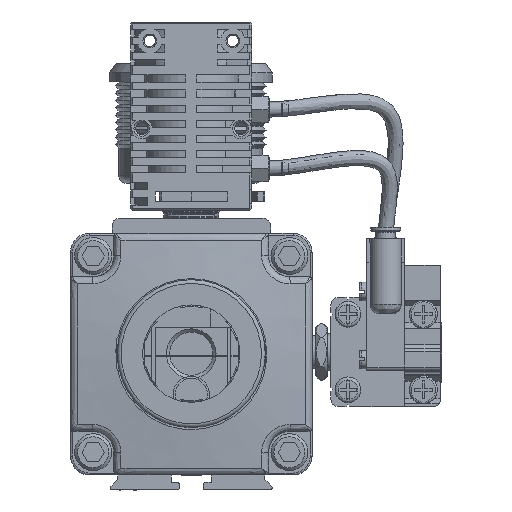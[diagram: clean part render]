
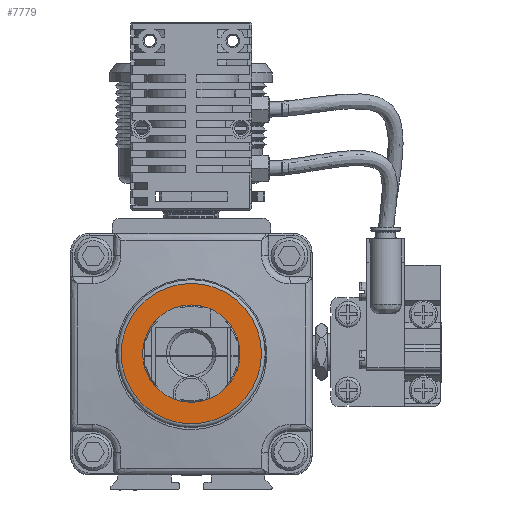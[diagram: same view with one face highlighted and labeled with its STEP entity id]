
A CAD part, left-side view. The second image highlights one B-rep face of the part: STEP entity #7779.
In plain terms, the highlighted planar face has unit normal (-1, 0, 0).
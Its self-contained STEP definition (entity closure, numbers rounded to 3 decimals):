
#7779 = ADVANCED_FACE( '', ( #17415, #17416 ), #17417, .F. );
#17415 = FACE_OUTER_BOUND( '', #27000, .T. );
#17416 = FACE_BOUND( '', #27001, .T. );
#17417 = PLANE( '', #27002 );
#27000 = EDGE_LOOP( '', ( #40205 ) );
#27001 = EDGE_LOOP( '', ( #40206 ) );
#27002 = AXIS2_PLACEMENT_3D( '', #40207, #40208, #40209 );
#40205 = ORIENTED_EDGE( '', *, *, #58937, .T. );
#40206 = ORIENTED_EDGE( '', *, *, #58938, .F. );
#40207 = CARTESIAN_POINT( '', ( -64.5, 0., 0. ) );
#40208 = DIRECTION( '', ( 1., 0., 0. ) );
#40209 = DIRECTION( '', ( 0., 1., 0. ) );
#58937 = EDGE_CURVE( '', #67482, #67482, #67483, .T. );
#58938 = EDGE_CURVE( '', #67484, #67484, #67485, .T. );
#67482 = VERTEX_POINT( '', #79847 );
#67483 = CIRCLE( '', #79848, 18.6 );
#67484 = VERTEX_POINT( '', #79849 );
#67485 = CIRCLE( '', #79850, 12.9 );
#79847 = CARTESIAN_POINT( '', ( -64.5, 0., -18.6 ) );
#79848 = AXIS2_PLACEMENT_3D( '', #91716, #91717, #91718 );
#79849 = CARTESIAN_POINT( '', ( -64.5, 0., -12.9 ) );
#79850 = AXIS2_PLACEMENT_3D( '', #91719, #91720, #91721 );
#91716 = CARTESIAN_POINT( '', ( -64.5, 0., 0. ) );
#91717 = DIRECTION( '', ( -1., 0., 0. ) );
#91718 = DIRECTION( '', ( 0., 0., -1. ) );
#91719 = CARTESIAN_POINT( '', ( -64.5, 0., 0. ) );
#91720 = DIRECTION( '', ( -1., 0., 0. ) );
#91721 = DIRECTION( '', ( 0., 0., -1. ) );
